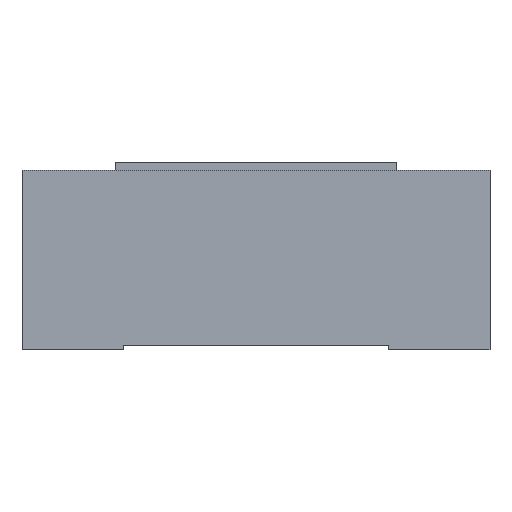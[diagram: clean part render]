
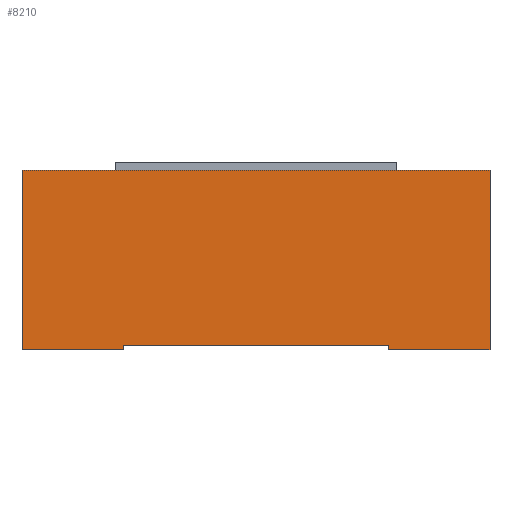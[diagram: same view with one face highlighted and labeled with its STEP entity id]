
A CAD part, left-side view. The second image highlights one B-rep face of the part: STEP entity #8210.
In plain terms, the highlighted planar face has unit normal (-1, 0, 0).
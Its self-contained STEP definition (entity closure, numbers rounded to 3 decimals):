
#671 = ORIENTED_EDGE ( 'NONE', *, *, #8672, .F. ) ;
#696 = ORIENTED_EDGE ( 'NONE', *, *, #8673, .T. ) ;
#699 = ORIENTED_EDGE ( 'NONE', *, *, #8653, .T. ) ;
#700 = ORIENTED_EDGE ( 'NONE', *, *, #8671, .F. ) ;
#1750 = FACE_OUTER_BOUND ( 'NONE', #3967, .T. ) ;
#2023 = CARTESIAN_POINT ( 'NONE',  ( -15., -15., 11.5 ) ) ;
#2032 = PLANE ( 'NONE',  #9643 ) ;
#2034 = DIRECTION ( 'NONE',  ( 1., 0., 0. ) ) ;
#2035 = DIRECTION ( 'NONE',  ( 0., 0., -1. ) ) ;
#2369 = CARTESIAN_POINT ( 'NONE',  ( -15., -15., 0. ) ) ;
#2385 = CARTESIAN_POINT ( 'NONE',  ( -15., 15., 11.5 ) ) ;
#2422 = CARTESIAN_POINT ( 'NONE',  ( -15., -15., 11.5 ) ) ;
#2487 = CARTESIAN_POINT ( 'NONE',  ( -15., -8.5, 0.25 ) ) ;
#2606 = CARTESIAN_POINT ( 'NONE',  ( -15., 15., 0. ) ) ;
#3967 = EDGE_LOOP ( 'NONE', ( #699, #700, #671, #696, #7403, #7388, #7400, #7401 ) ) ;
#4056 = VERTEX_POINT ( 'NONE', #7590 ) ;
#5762 = CARTESIAN_POINT ( 'NONE',  ( -15., -15., 0. ) ) ;
#5763 = DIRECTION ( 'NONE',  ( 0., -1., 0. ) ) ;
#5797 = CARTESIAN_POINT ( 'NONE',  ( -15., 15., 11.5 ) ) ;
#5798 = CARTESIAN_POINT ( 'NONE',  ( -15., 8.5, 0.25 ) ) ;
#5803 = DIRECTION ( 'NONE',  ( 0., 0., -1. ) ) ;
#5804 = CARTESIAN_POINT ( 'NONE',  ( -15., -8.5, 0.25 ) ) ;
#5805 = DIRECTION ( 'NONE',  ( 0., 1., 0. ) ) ;
#5806 = CARTESIAN_POINT ( 'NONE',  ( -15., -8.5, 0.25 ) ) ;
#5807 = DIRECTION ( 'NONE',  ( 0., 0., -1. ) ) ;
#5808 = CARTESIAN_POINT ( 'NONE',  ( -15., -15., 0. ) ) ;
#5809 = DIRECTION ( 'NONE',  ( 0., -1., 0. ) ) ;
#5810 = CARTESIAN_POINT ( 'NONE',  ( -15., -15., 11.5 ) ) ;
#5811 = DIRECTION ( 'NONE',  ( 0., 0., -1. ) ) ;
#5812 = CARTESIAN_POINT ( 'NONE',  ( -15., -15., 11.5 ) ) ;
#5814 = DIRECTION ( 'NONE',  ( 0., -1., 0. ) ) ;
#5815 = DIRECTION ( 'NONE',  ( 0., 0., -1. ) ) ;
#6309 = VERTEX_POINT ( 'NONE', #2606 ) ;
#7388 = ORIENTED_EDGE ( 'NONE', *, *, #8675, .F. ) ;
#7400 = ORIENTED_EDGE ( 'NONE', *, *, #8676, .F. ) ;
#7401 = ORIENTED_EDGE ( 'NONE', *, *, #8677, .T. ) ;
#7403 = ORIENTED_EDGE ( 'NONE', *, *, #8674, .T. ) ;
#7590 = CARTESIAN_POINT ( 'NONE',  ( -15., 8.5, 0. ) ) ;
#8119 = LINE ( 'NONE', #5762, #8122 ) ;
#8122 = VECTOR ( 'NONE', #5763, 1000. ) ;
#8148 = LINE ( 'NONE', #5798, #8154 ) ;
#8151 = LINE ( 'NONE', #5797, #8166 ) ;
#8153 = LINE ( 'NONE', #5804, #8156 ) ;
#8154 = VECTOR ( 'NONE', #5803, 1000. ) ;
#8155 = LINE ( 'NONE', #5806, #8158 ) ;
#8156 = VECTOR ( 'NONE', #5805, 1000. ) ;
#8157 = LINE ( 'NONE', #5808, #8160 ) ;
#8158 = VECTOR ( 'NONE', #5807, 1000. ) ;
#8159 = LINE ( 'NONE', #5810, #8162 ) ;
#8160 = VECTOR ( 'NONE', #5809, 1000. ) ;
#8161 = LINE ( 'NONE', #5812, #8164 ) ;
#8162 = VECTOR ( 'NONE', #5811, 1000. ) ;
#8164 = VECTOR ( 'NONE', #5814, 1000. ) ;
#8166 = VECTOR ( 'NONE', #5815, 1000. ) ;
#8210 = ADVANCED_FACE ( 'NONE', ( #1750 ), #2032, .F. ) ;
#8653 = EDGE_CURVE ( 'NONE', #6309, #4056, #8119, .T. ) ;
#8671 = EDGE_CURVE ( 'NONE', #10223, #4056, #8148, .T. ) ;
#8672 = EDGE_CURVE ( 'NONE', #10212, #10223, #8153, .T. ) ;
#8673 = EDGE_CURVE ( 'NONE', #10212, #10265, #8155, .T. ) ;
#8674 = EDGE_CURVE ( 'NONE', #10265, #10096, #8157, .T. ) ;
#8675 = EDGE_CURVE ( 'NONE', #10149, #10096, #8159, .T. ) ;
#8676 = EDGE_CURVE ( 'NONE', #10112, #10149, #8161, .T. ) ;
#8677 = EDGE_CURVE ( 'NONE', #10112, #6309, #8151, .T. ) ;
#8934 = CARTESIAN_POINT ( 'NONE',  ( -15., 8.5, 0.25 ) ) ;
#8976 = CARTESIAN_POINT ( 'NONE',  ( -15., -8.5, 0. ) ) ;
#9643 = AXIS2_PLACEMENT_3D ( 'NONE', #2023, #2034, #2035 ) ;
#10096 = VERTEX_POINT ( 'NONE', #2369 ) ;
#10112 = VERTEX_POINT ( 'NONE', #2385 ) ;
#10149 = VERTEX_POINT ( 'NONE', #2422 ) ;
#10212 = VERTEX_POINT ( 'NONE', #2487 ) ;
#10223 = VERTEX_POINT ( 'NONE', #8934 ) ;
#10265 = VERTEX_POINT ( 'NONE', #8976 ) ;
